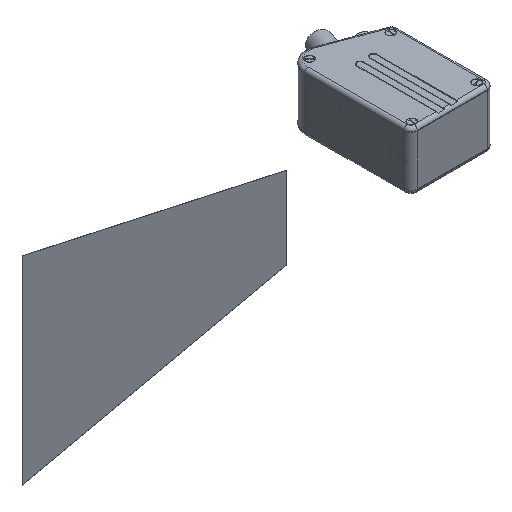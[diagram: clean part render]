
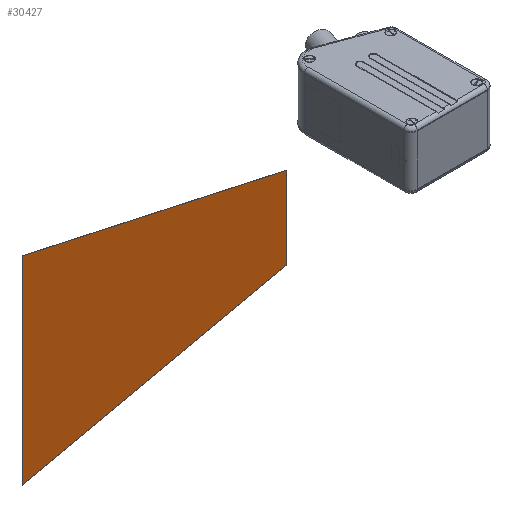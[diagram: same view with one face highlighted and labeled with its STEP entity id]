
A CAD part, isometric view. The second image highlights one B-rep face of the part: STEP entity #30427.
In plain terms, the highlighted planar face has unit normal (0, -1, 0) as drawn and (0, 0, -1) by its records, which use the part's own axes.
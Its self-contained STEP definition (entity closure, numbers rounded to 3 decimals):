
#876 = CARTESIAN_POINT ( 'NONE',  ( -31., -1.574, 0. ) ) ;
#1802 = LINE ( 'NONE', #19388, #32593 ) ;
#4307 = EDGE_CURVE ( 'NONE', #27452, #29829, #1802, .T. ) ;
#5083 = LINE ( 'NONE', #31524, #31281 ) ;
#5185 = EDGE_CURVE ( 'NONE', #6071, #27452, #5083, .T. ) ;
#5791 = LINE ( 'NONE', #23515, #6202 ) ;
#6071 = VERTEX_POINT ( 'NONE', #29258 ) ;
#6202 = VECTOR ( 'NONE', #26224, 1000. ) ;
#7134 = VECTOR ( 'NONE', #33464, 1000. ) ;
#9198 = PLANE ( 'NONE',  #14433 ) ;
#9635 = CARTESIAN_POINT ( 'NONE',  ( 31., -1.574, 0. ) ) ;
#9693 = VERTEX_POINT ( 'NONE', #9635 ) ;
#11540 = ORIENTED_EDGE ( 'NONE', *, *, #14774, .F. ) ;
#11874 = CARTESIAN_POINT ( 'NONE',  ( 0., 0., 0. ) ) ;
#13546 = EDGE_CURVE ( 'NONE', #29829, #9693, #14239, .T. ) ;
#13800 = ORIENTED_EDGE ( 'NONE', *, *, #4307, .F. ) ;
#14239 = LINE ( 'NONE', #28144, #7134 ) ;
#14433 = AXIS2_PLACEMENT_3D ( 'NONE', #11874, #17575, #25741 ) ;
#14774 = EDGE_CURVE ( 'NONE', #9693, #6071, #5791, .T. ) ;
#15845 = DIRECTION ( 'NONE',  ( -1., 0., 0. ) ) ;
#16523 = FACE_OUTER_BOUND ( 'NONE', #31880, .T. ) ;
#17575 = DIRECTION ( 'NONE',  ( 0., 0., -1. ) ) ;
#18937 = DIRECTION ( 'NONE',  ( 0.215, -0.977, 0. ) ) ;
#19388 = CARTESIAN_POINT ( 'NONE',  ( -31., -1.574, 0. ) ) ;
#21996 = ORIENTED_EDGE ( 'NONE', *, *, #5185, .F. ) ;
#23515 = CARTESIAN_POINT ( 'NONE',  ( 75., 198.426, 0. ) ) ;
#24077 = ORIENTED_EDGE ( 'NONE', *, *, #13546, .F. ) ;
#25741 = DIRECTION ( 'NONE',  ( -1., 0., 0. ) ) ;
#26224 = DIRECTION ( 'NONE',  ( 0.215, 0.977, 0. ) ) ;
#27452 = VERTEX_POINT ( 'NONE', #30144 ) ;
#28144 = CARTESIAN_POINT ( 'NONE',  ( 31., -1.574, 0. ) ) ;
#29258 = CARTESIAN_POINT ( 'NONE',  ( 75., 198.426, 0. ) ) ;
#29829 = VERTEX_POINT ( 'NONE', #876 ) ;
#30144 = CARTESIAN_POINT ( 'NONE',  ( -75., 198.426, 0. ) ) ;
#30427 = ADVANCED_FACE ( 'NONE', ( #16523 ), #9198, .T. ) ;
#31281 = VECTOR ( 'NONE', #15845, 1000. ) ;
#31524 = CARTESIAN_POINT ( 'NONE',  ( -75., 198.426, 0. ) ) ;
#31880 = EDGE_LOOP ( 'NONE', ( #13800, #21996, #11540, #24077 ) ) ;
#32593 = VECTOR ( 'NONE', #18937, 1000. ) ;
#33464 = DIRECTION ( 'NONE',  ( 1., 0., 0. ) ) ;
